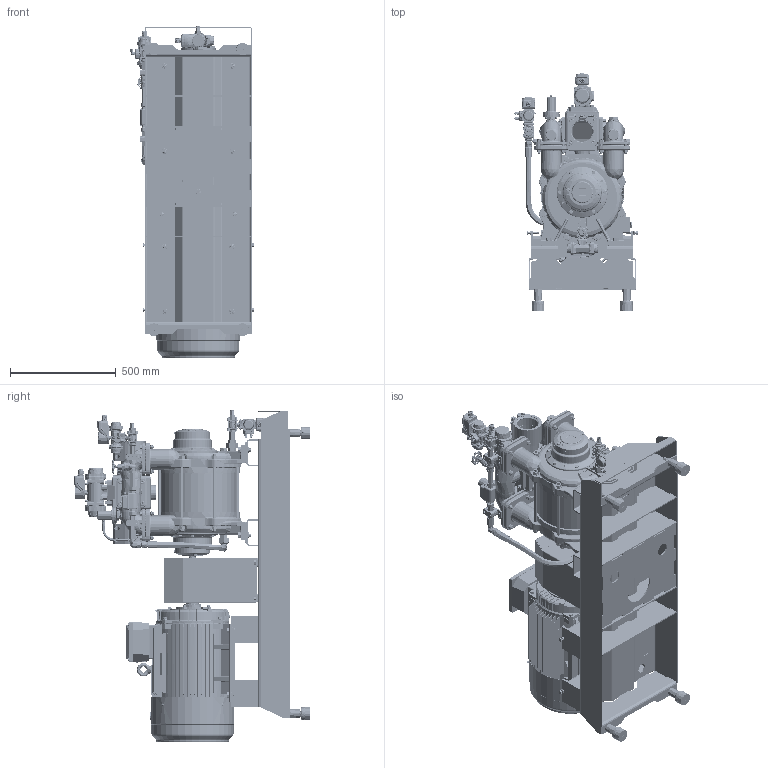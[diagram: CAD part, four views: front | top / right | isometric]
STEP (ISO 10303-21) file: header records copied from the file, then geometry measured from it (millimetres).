
FILE_DESCRIPTION(/* description */ (''),/* implementation_level */ '2;1');
FILE_NAME(/* name */ '1700117A.stp',/* time_stamp */ '2025-07-31T14:27:59+02:00',/* author */ ('JJ'),/* organization */ (''),/* preprocessor_version */ 'ST-DEVELOPER v20',/* originating_system */ 'Autodesk Inventor 2025',/* authorisation */ '');
FILE_SCHEMA (('AUTOMOTIVE_DESIGN { 1 0 10303 214 3 1 1 }'));
Products named in the file (104): 1700117; 946000141; 932400049; 932300001; 932300005; 932400048; 910100155; 910000526; 910000297; 910000517; 1632204; 910100021; 1632205; 1632208; 910100161; 961000522; 1632212; 927000162-388 version 3; 925000873; 925000882; 925000882_part1; 925000882_part2; 925000878; 925000792; 1632216; 925000869; 925200610; 925000857; 910300370; 910300468; 1634666; 1634667; 1634668; 1634130; 1634131; 1634670; 1634134; 910200105; 910100125; 910300428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
Assembly tree (307 placements, depth 4):
  1700117
    946000141
    932400049
    932300001
    932300005
    932400048  x2
    910100155  x4
    910000526  x4
    910100021  x12
    910000297  x4
    910000517  x4
    1632204  x4
    1632205  x4
    1632208  x4
    910100161  x4
    961000522  x4
    1632212
      925000873  x2
      925000878  x2
      925000882  x2
        925000882_part1
        925000882_part2
      927000162-388 version 3
    925000792
    1632216
      944600329
      944600328
      910100191  x4
      910000114  x4
      948000434
        948000434_part2
        948000434_part1
      915000241  x2
      925000725
      925000869
      925200610
    925000857  x4
    910300370  x4
    910100125  x4
    910300468  x4
    1632246  x2
    1634666
      1634667
      1634668
      1634130
      1634131
      1634670
      1634134
      910200105
      910100125
      910300428
      921000047
      922100045
      922100339
      1634669
      925000651
      910300012  x4
    927000134 OM1000 G2
    925100552
    925000865
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Bounding box: 583.35 x 1120.71 x 1570.18 mm (x, y, z)
Volume: 100260781.2 mm3; surface area: 15025077 mm2
Topology: 504 solids, 515 shells, 29204 faces, 73307 edges, 46193 vertices
Faces by surface type: plane 11820, cylinder 6801, bspline 5307, cone 2728, torus 2253, sphere 295
Full cylindrical faces by diameter (mm): 0.8 x1, 0.847 x2, 0.857 x2, 1.656 x4, 1.676 x2, 1.7 x4, 1.8 x4, 2 x28, 2.2 x2, 2.5 x10, 3 x4, 3.2 x4, 3.3 x4, 3.6 x4, 4 x6, 4.134 x8, 4.2 x20, 4.3 x8, 4.33 x4, 4.45 x6, 4.567 x8, 4.917 x16, 4.92 x5, 5 x26, 5.3 x8, 5.589 x2, 5.6 x16, 6 x57, 6.1 x1, 6.25 x8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
Entity records: 840087 total; most frequent: CARTESIAN_POINT 418384, ORIENTED_EDGE 88570, DIRECTION 79498, EDGE_CURVE 44285, AXIS2_PLACEMENT_3D 29633, VERTEX_POINT 27939, LINE 20232, VECTOR 20232
